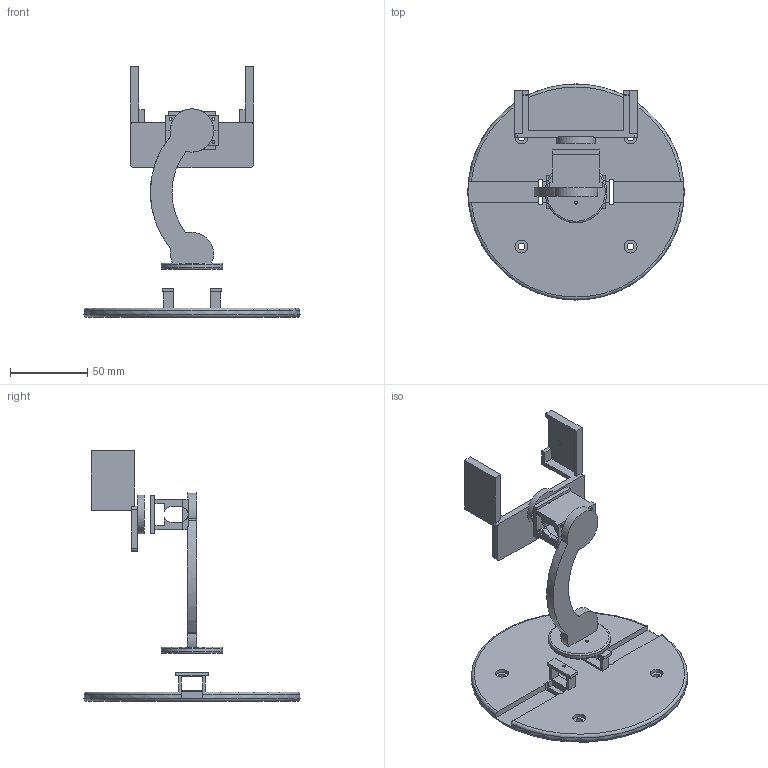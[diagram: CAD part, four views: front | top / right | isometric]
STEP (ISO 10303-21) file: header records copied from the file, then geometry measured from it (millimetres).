
FILE_DESCRIPTION(('Open CASCADE Model'),'2;1');
FILE_NAME('Open CASCADE Shape Model','2026-08-28T21:04:16',('Author'),( 'Open CASCADE'),'Open CASCADE STEP processor 7.8','Open CASCADE 7.8' ,'Unknown');
FILE_SCHEMA(('AUTOMOTIVE_DESIGN { 1 0 10303 214 1 1 1 1 }'));
Length unit declared in the file: millimetre
Products named in the file (5): C270_PanTilt_Printable_Assembly; PanServo_StabilityBase; CurvedArm_SG90_TiltHolder; SG90_RetainingCap; Logitech_C270_ScrewlessCradle
Assembly tree (4 placements, depth 2):
  C270_PanTilt_Printable_Assembly
    PanServo_StabilityBase
    CurvedArm_SG90_TiltHolder
    SG90_RetainingCap
    Logitech_C270_ScrewlessCradle
Bounding box: 140 x 140 x 162.31 mm (x, y, z)
Volume: 129828.7 mm3; surface area: 61908.9 mm2
Topology: 4 solids, 4 shells, 208 faces, 570 edges, 377 vertices
Faces by surface type: plane 150, cylinder 49, torus 5, bspline 4
Full cylindrical faces by diameter (mm): 1.8 x4, 1.9 x2, 2 x8, 2.4 x4, 3.2 x2, 4 x2, 4.4 x4, 8.4 x4, 21 x1, 25 x1, 40 x1, 140 x1
Entity records: 14501 total; most frequent: CARTESIAN_POINT 3355, DIRECTION 1901, ORIENTED_EDGE 1140, PCURVE 1140, DEFINITIONAL_REPRESENTATION 1140, LINE 1095, VECTOR 1095, EDGE_CURVE 570
